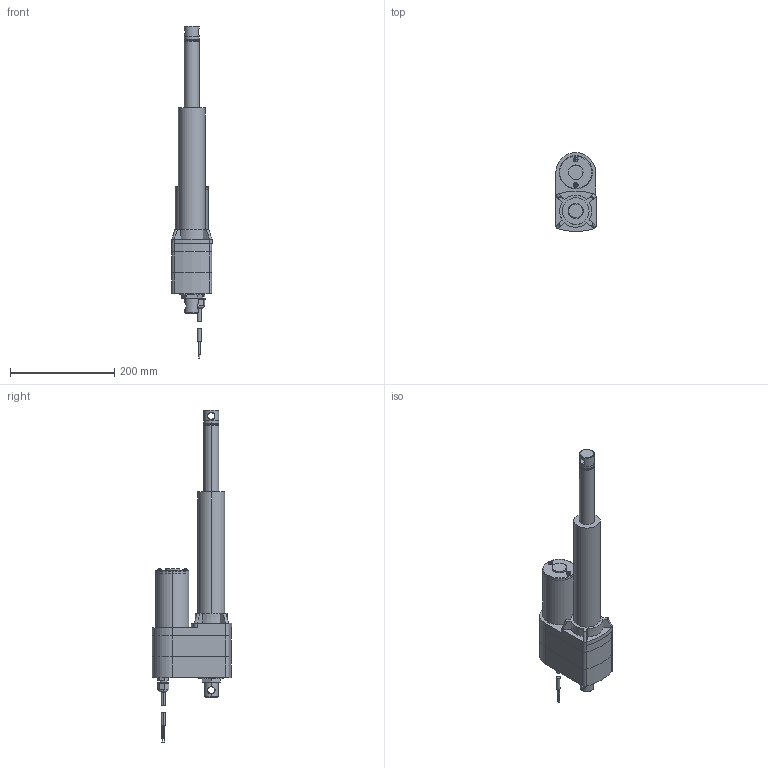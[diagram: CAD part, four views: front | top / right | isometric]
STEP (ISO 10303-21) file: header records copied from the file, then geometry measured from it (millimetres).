
FILE_DESCRIPTION (( 'STEP AP203' ), '1' );
FILE_NAME ('LA10_BALL_6x.step', '2021-02-24T15:35:16', ( '' ), ( '' ), 'SwSTEP 2.0', 'SolidWorks 2017', '' );
FILE_SCHEMA (( 'CONFIG_CONTROL_DESIGN' ));
Length unit declared in the file: millimetre
Products named in the file (1): LA10_BALL_6x
Bounding box: 77.22 x 151.29 x 635.46 mm (x, y, z)
Volume: 2088128.1 mm3; surface area: 211092.7 mm2
Topology: 14 solids, 14 shells, 327 faces, 704 edges, 436 vertices
Faces by surface type: plane 156, cylinder 103, cone 24, bspline 22, torus 18, sphere 4
Entity records: 10888 total; most frequent: CARTESIAN_POINT 3656, DIRECTION 1547, ORIENTED_EDGE 1408, EDGE_CURVE 704, AXIS2_PLACEMENT_3D 607, VERTEX_POINT 436, EDGE_LOOP 366, VECTOR 333
